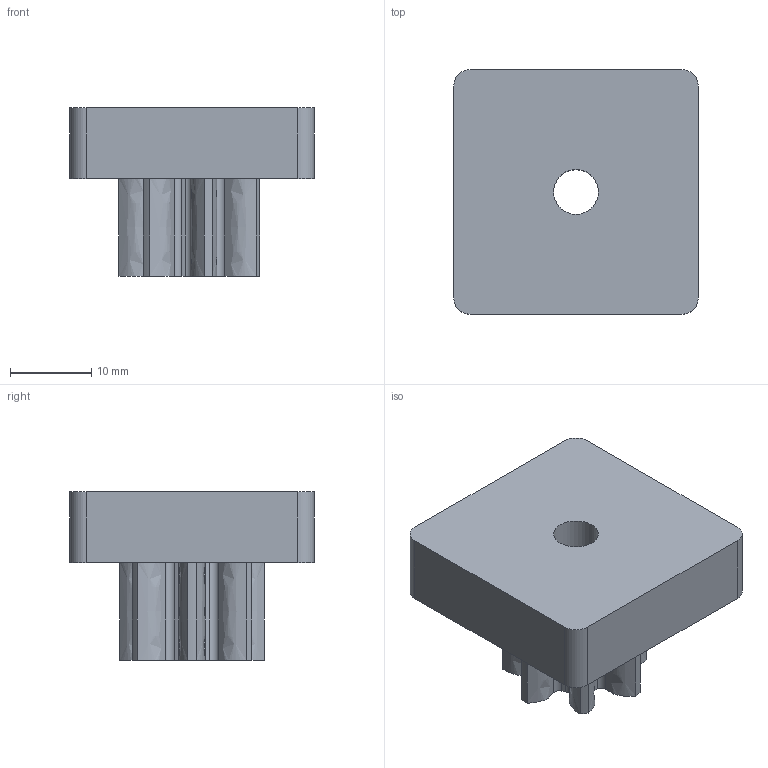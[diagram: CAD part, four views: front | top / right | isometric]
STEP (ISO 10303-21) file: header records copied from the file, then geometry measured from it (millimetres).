
FILE_DESCRIPTION(('STEP AP242 Edition 2','STEP AP242 Edition 2''CAx-IF Rec.Pracs.---Representation and Presentation of Product Manufacturing Information (PMI)---4.0---2014-10-13','STEP AP242 Edition 2''CAx-IF Rec.Pracs.---Representation and Presentation of Product Manufacturing Information (PMI)---4.0---2014-10-13''CAx-IF Rec.Pracs.---3D Tessellated Geometry---0.4---2014-09-14','STEP AP242 Edition 2''CAx-IF Rec.Pracs.---Representation and Presentation of Product Manufacturing Information (PMI)---4.0---2014-10-13''CAx-IF Rec.Pracs.---3D Tessellated Geometry---0.4---2014-09-14''2;1','STEP AP242 Edition 2''CAx-IF Rec.Pracs.---Representation and Presentation of Product Manufacturing Information (PMI)---4.0---2014-10-13''CAx-IF Rec.Pracs.---3D Tessellated Geometry---0.4---2014-09-14''2;1''CAx-IF Rec.Pracs.---User Defined Attributes---1.5---2016-08-15'),'2;1');
FILE_NAME('/vol/tmp/translate-4528386446738312572/compoundTPUGear - Spur gear (7 teeth).step','2026-03-05T22:43:53',(''),(''),'ST-DEVELOPER v20','ONSHAPE BY PTC INC, 1.211',' ');
FILE_SCHEMA(('AP242_MANAGED_MODEL_BASED_3D_ENGINEERING_MIM_LF { 1 0 10303 442 3 1 4 }'));
Length unit declared in the file: metre
Products named in the file (1): Spur gear (7 teeth)
Bounding box: 30 x 30 x 20.7 mm (x, y, z)
Volume: 9053.5 mm3; surface area: 4145 mm2
Topology: 1 solids, 1 shells, 54 faces, 154 edges, 103 vertices
Faces by surface type: cylinder 33, bspline 14, plane 7
Full cylindrical faces by diameter (mm): 5.5 x1
Entity records: 3512 total; most frequent: CARTESIAN_POINT 2115, ORIENTED_EDGE 304, DIRECTION 272, EDGE_CURVE 152, AXIS2_PLACEMENT_3D 107, VERTEX_POINT 102, CIRCLE 66, LINE 58
